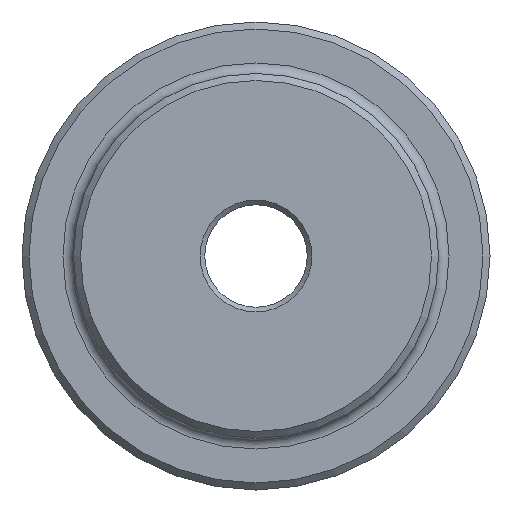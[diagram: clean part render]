
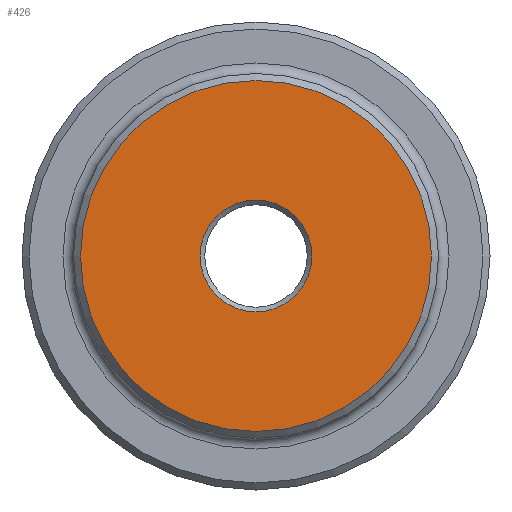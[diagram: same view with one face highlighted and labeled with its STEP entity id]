
A CAD part, left-side view. The second image highlights one B-rep face of the part: STEP entity #426.
In plain terms, the highlighted planar face has unit normal (-1, 0, 0).
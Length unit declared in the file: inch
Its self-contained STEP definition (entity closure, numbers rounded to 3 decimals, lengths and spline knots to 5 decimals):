
#19 = DIRECTION ( 'NONE',  ( -1., 0., 0. ) ) ;
#64 = CARTESIAN_POINT ( 'NONE',  ( 0., 0., 0. ) ) ;
#239 = VERTEX_POINT ( 'NONE', #468 ) ;
#302 = DIRECTION ( 'NONE',  ( 1., 0., 0. ) ) ;
#426 = ADVANCED_FACE ( 'NONE', ( #1246, #1647 ), #1101, .F. ) ;
#452 = EDGE_CURVE ( 'NONE', #239, #239, #691, .T. ) ;
#468 = CARTESIAN_POINT ( 'NONE',  ( 0., 0., -1.5 ) ) ;
#556 = EDGE_LOOP ( 'NONE', ( #1712 ) ) ;
#558 = VERTEX_POINT ( 'NONE', #774 ) ;
#691 = CIRCLE ( 'NONE', #1631, 1.5 ) ;
#774 = CARTESIAN_POINT ( 'NONE',  ( 0., 0., -0.47765 ) ) ;
#831 = CARTESIAN_POINT ( 'NONE',  ( 0., 0., 0. ) ) ;
#895 = CARTESIAN_POINT ( 'NONE',  ( 0., 0., 0. ) ) ;
#943 = ORIENTED_EDGE ( 'NONE', *, *, #1371, .T. ) ;
#1077 = DIRECTION ( 'NONE',  ( 0., 0., -1. ) ) ;
#1101 = PLANE ( 'NONE',  #1495 ) ;
#1206 = CIRCLE ( 'NONE', #1840, 0.47765 ) ;
#1246 = FACE_BOUND ( 'NONE', #1446, .T. ) ;
#1263 = DIRECTION ( 'NONE',  ( 0., 0., -1. ) ) ;
#1340 = DIRECTION ( 'NONE',  ( 0., 0., -1. ) ) ;
#1371 = EDGE_CURVE ( 'NONE', #558, #558, #1206, .T. ) ;
#1381 = DIRECTION ( 'NONE',  ( 1., 0., 0. ) ) ;
#1446 = EDGE_LOOP ( 'NONE', ( #943 ) ) ;
#1495 = AXIS2_PLACEMENT_3D ( 'NONE', #895, #302, #1340 ) ;
#1631 = AXIS2_PLACEMENT_3D ( 'NONE', #831, #19, #1077 ) ;
#1647 = FACE_OUTER_BOUND ( 'NONE', #556, .T. ) ;
#1712 = ORIENTED_EDGE ( 'NONE', *, *, #452, .T. ) ;
#1840 = AXIS2_PLACEMENT_3D ( 'NONE', #64, #1381, #1263 ) ;
